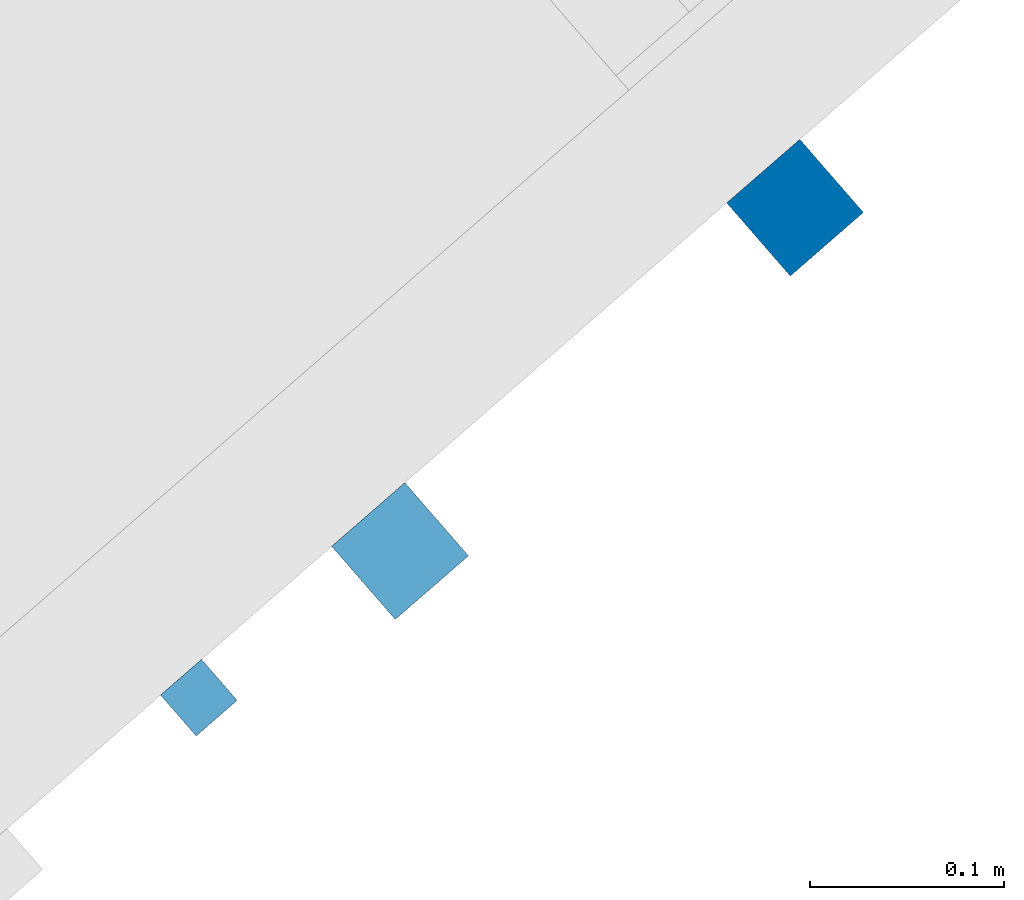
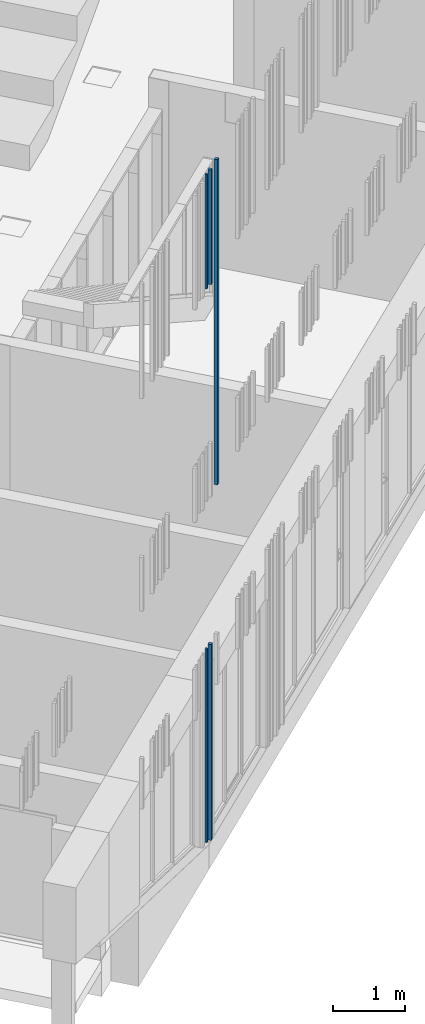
# One storey, part 37 of 124: 5 walls.
"""IFC2X3 building model written with IfcOpenShell, lengths in millimetres."""

import ifcopenshell
import ifcopenshell.guid

model = None  # the IFC model being written
_history = None  # IfcOwnerHistory: only IFC2X3 demands one
_inside = {}  # id of a spatial element -> (the spatial element, [elements in it])
_under = {}  # id of a project, library or spatial element -> (it, [spatial elements below it])
_declared = {}  # id of a project -> (the project, [libraries it declares])
_typed = {}  # id of a type object -> (the type object, [elements of that type])
_made_of = {}  # id of a material, layer set ... -> (it, [elements and type objects made of it])


def new_model(schema):
    """Start an empty IFC model of exactly this schema.

    Asked for "IFC4X3", IfcOpenShell would pick the latest addendum, in which some entities
    have other attributes; the version numbers below select the first issue.
    IFC2X3 requires an IfcOwnerHistory on every rooted entity: one is made here for all.
    """
    global model, _history
    if schema == "IFC4X3":
        model = ifcopenshell.file(schema_version=(4, 3, 0, 0))
    else:
        model = ifcopenshell.file(schema=schema)
    _inside.clear()
    _under.clear()
    _declared.clear()
    _typed.clear()
    _made_of.clear()
    _history = None
    if model.schema == "IFC2X3":
        org = make("IfcOrganization", Name="unknown")
        user = make(
            "IfcPersonAndOrganization",
            ThePerson=make("IfcPerson", FamilyName="unknown"),
            TheOrganization=org,
        )
        app = make(
            "IfcApplication",
            ApplicationDeveloper=org,
            Version="unknown",
            ApplicationFullName="unknown",
            ApplicationIdentifier="unknown",
        )
        _history = make(
            "IfcOwnerHistory",
            OwningUser=user,
            OwningApplication=app,
            ChangeAction="ADDED",
            CreationDate=0,
        )
    return model


def make(cls, **values):
    """One entity of the class cls with the attributes given. An attribute that is None is left unset."""
    return model.create_entity(
        cls, **{name: value for name, value in values.items() if value is not None}
    )


def entity(cls, *values):
    """Any entity or typed value of the class cls, its attributes in the order of the schema. None: left unset."""
    e = model.create_entity(cls)
    for i, value in enumerate(values):
        if value is not None:
            e[i] = value
    return e


def rooted(cls, **values):
    """An entity with a GlobalId (a new one), such as an element, a storey or a relation."""
    return make(cls, GlobalId=ifcopenshell.guid.new(), OwnerHistory=_history, **values)


def si_unit(unit_type, name, prefix=None):
    """IfcSIUnit, for example si_unit("LENGTHUNIT", "METRE", prefix="MILLI")."""
    return make("IfcSIUnit", UnitType=unit_type, Prefix=prefix, Name=name)


def converted_unit(unit_type, name, factor, base, dimensions=None, offset=None):
    """IfcConversionBasedUnit, such as the inch: factor (a typed value) times the base unit."""
    return make(
        "IfcConversionBasedUnit"
        if offset is None
        else "IfcConversionBasedUnitWithOffset",
        ConversionOffset=offset,
        Dimensions=None
        if dimensions is None
        else entity("IfcDimensionalExponents", *dimensions),
        UnitType=unit_type,
        Name=name,
        ConversionFactor=make(
            "IfcMeasureWithUnit", ValueComponent=factor, UnitComponent=base
        ),
    )


def derived_unit(unit_type, elements):
    """IfcDerivedUnit: a product of units, each with its exponent."""
    return make(
        "IfcDerivedUnit",
        Elements=[
            make("IfcDerivedUnitElement", Unit=unit, Exponent=power)
            for unit, power in elements
        ],
        UnitType=unit_type,
    )


def money_unit(currency):
    """IfcMonetaryUnit."""
    return make("IfcMonetaryUnit", Currency=currency)


def assignment(units):
    """IfcUnitAssignment: the units of a project."""
    return None if units is None else make("IfcUnitAssignment", Units=units)


def point(xyz):
    """IfcCartesianPoint."""
    return None if xyz is None else make("IfcCartesianPoint", Coordinates=xyz)


def direction(xyz):
    """IfcDirection."""
    return None if xyz is None else make("IfcDirection", DirectionRatios=xyz)


def frame(location, z_axis=None, x_axis=None):
    """IfcAxis2Placement3D, a coordinate frame: its origin and axes. An axis left out is left unset."""
    return make(
        "IfcAxis2Placement3D",
        Location=point(location),
        Axis=direction(z_axis),
        RefDirection=direction(x_axis),
    )


def origin_with_axes():
    """The frame at (0, 0, 0) with the z axis (0, 0, 1) and the x axis (1, 0, 0) written out."""
    return frame((0.0, 0.0, 0.0), z_axis=(0.0, 0.0, 1.0), x_axis=(1.0, 0.0, 0.0))


def place(relative_to, where):
    """IfcLocalPlacement: puts the frame where relative to a parent placement (None: the world)."""
    return make(
        "IfcLocalPlacement", PlacementRelTo=relative_to, RelativePlacement=where
    )


def context(
    kind, dimensions, precision=None, world=None, true_north=None, identifier=None
):
    """IfcGeometricRepresentationContext, for example the 3D "Model" context."""
    return make(
        "IfcGeometricRepresentationContext",
        ContextIdentifier=identifier,
        ContextType=kind,
        CoordinateSpaceDimension=dimensions,
        Precision=precision,
        WorldCoordinateSystem=world,
        TrueNorth=true_north,
    )


def subcontext(parent, identifier, kind, view, scale=None):
    """IfcGeometricRepresentationSubContext, for example "Body" below "Model"."""
    return make(
        "IfcGeometricRepresentationSubContext",
        ContextIdentifier=identifier,
        ContextType=kind,
        ParentContext=parent,
        TargetScale=scale,
        TargetView=view,
    )


def project(units=None, contexts=None):
    """IfcProject with its units and contexts."""
    return rooted(
        "IfcProject",
        Name="project",
        RepresentationContexts=contexts,
        UnitsInContext=assignment(units),
    )


def spatial(cls, under=None, at=None, **own):
    """A site, building, storey or space (cls), placed at a placement, below another one or the project."""
    s = rooted(cls, ObjectPlacement=at, **own)
    if under is not None:
        _under.setdefault(under.id(), (under, []))[1].append(s)
    return s


def faces_of(points, faces, orient=None, outer=None):
    """IfcFace entities. A face is a list of loops; a loop is a list of indices into points, from 0.

    orient and outer hold one flag for each loop. By default every Orientation is true, the
    first loop of a face is its IfcFaceOuterBound and the others are IfcFaceBound.
    """
    made = []
    for i, loops in enumerate(faces):
        bounds = []
        for j, loop in enumerate(loops):
            is_outer = j == 0 if outer is None else outer[i][j]
            bounds.append(
                make(
                    "IfcFaceOuterBound" if is_outer else "IfcFaceBound",
                    Bound=make("IfcPolyLoop", Polygon=[points[k] for k in loop]),
                    Orientation=True if orient is None else orient[i][j],
                )
            )
        made.append(make("IfcFace", Bounds=bounds))
    return made


def faceted_brep(points, faces, orient=None, outer=None, voids=None):
    """IfcFacetedBrep: a solid bounded by flat faces; with voids (closed shells), ...WithVoids."""
    shared = [point(p) for p in points]
    hull = make("IfcClosedShell", CfsFaces=faces_of(shared, faces, orient, outer))
    if voids is None:
        return make("IfcFacetedBrep", Outer=hull)
    return make(
        "IfcFacetedBrepWithVoids",
        Outer=hull,
        Voids=[
            make(cls, CfsFaces=faces_of(shared, fs, o, b)) for cls, fs, o, b in voids
        ],
    )


def shape(context_of_items, identifier, shape_type, items):
    """IfcShapeRepresentation: the items that make up one representation, for example the "Body"."""
    return make(
        "IfcShapeRepresentation",
        ContextOfItems=context_of_items,
        RepresentationIdentifier=identifier,
        RepresentationType=shape_type,
        Items=items,
    )


def material(Name=None, Category=None):
    """IfcMaterial."""
    return make("IfcMaterial", Name=Name, Category=Category)


def made_of(thing, what):
    """Note that an element or type object is made of a material, layer set ...; save() writes the relation."""
    if what is not None:
        _made_of.setdefault(what.id(), (what, []))[1].append(thing)
    return thing


def type_object(cls, material=None, **own):
    """A type object (cls), such as IfcWallType, which elements share."""
    return made_of(rooted(cls, **own), material)


def element(
    cls,
    number,
    at=None,
    inside=None,
    cuts=None,
    type_object=None,
    material=None,
    context=None,
    identifier="Body",
    shape_type=None,
    held_by="IfcProductDefinitionShape",
    body=None,
    shapes=None,
    **own,
):
    """One element of the class cls, such as IfcWall. Its Tag is "e" and its number.

    at: its placement. inside: the storey or other place that contains it. cuts: it is an
    opening in that element (IfcRelVoidsElement). A single representation is given by context,
    identifier, shape_type and body (its items); several are given by shapes. held_by: the class
    of the entity that holds the representations. save() writes the other relations.
    """
    e = rooted(cls, Tag="e%d" % number, ObjectPlacement=at, **own)
    if body is not None:
        shapes = [shape(context, identifier, shape_type, body)]
    if shapes is not None:
        e.Representation = make(held_by, Representations=shapes)
    if inside is not None:
        _inside.setdefault(inside.id(), (inside, []))[1].append(e)
    if cuts is not None:
        rooted(
            "IfcRelVoidsElement", RelatingBuildingElement=cuts, RelatedOpeningElement=e
        )
    if type_object is not None:
        _typed.setdefault(type_object.id(), (type_object, []))[1].append(e)
    return made_of(e, material)


def aggregate(whole, parts):
    """IfcRelAggregates: a whole, such as a stair, and the parts it consists of."""
    return rooted("IfcRelAggregates", RelatingObject=whole, RelatedObjects=parts)


def save(model, path):
    """Write the relations noted so far, then the file.

    IfcRelAggregates (storeys below a building ...), IfcRelContainedInSpatialStructure (elements
    in a storey), IfcRelDefinesByType, IfcRelAssociatesMaterial and IfcRelDeclares: one each for
    every whole, place, type object, material and project.
    """
    for whole, parts in _under.values():
        aggregate(whole, parts)
    for where, things in _inside.values():
        rooted(
            "IfcRelContainedInSpatialStructure",
            RelatedElements=things,
            RelatingStructure=where,
        )
    for kind, things in _typed.values():
        rooted("IfcRelDefinesByType", RelatedObjects=things, RelatingType=kind)
    for what, things in _made_of.values():
        rooted("IfcRelAssociatesMaterial", RelatedObjects=things, RelatingMaterial=what)
    for by, libraries in _declared.values():
        rooted("IfcRelDeclares", RelatingContext=by, RelatedDefinitions=libraries)
    model.write(path)


model = new_model("IFC2X3")

# Units and contexts
model_context = context("Model", 3, precision=1e-05, world=origin_with_axes(), true_north=direction((0.0, 1.0)))
body_context = subcontext(model_context, "Body", "Model", "MODEL_VIEW")
ifc_project = project(units=[si_unit("LENGTHUNIT", "METRE", prefix="MILLI"), si_unit("AREAUNIT", "SQUARE_METRE"), si_unit("VOLUMEUNIT", "CUBIC_METRE"), converted_unit("PLANEANGLEUNIT", "DEGREE", entity("IfcPlaneAngleMeasure", 0.0174532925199), si_unit("PLANEANGLEUNIT", "RADIAN"), dimensions=[0, 0, 0, 0, 0, 0, 0]), si_unit("SOLIDANGLEUNIT", "STERADIAN"), money_unit("EUR"), converted_unit("TIMEUNIT", "Year", entity("IfcTimeMeasure", 31556926.0), si_unit("TIMEUNIT", "SECOND"), dimensions=[0, 0, 1, 0, 0, 0, 0]), si_unit("MASSUNIT", "GRAM", prefix="KILO"), si_unit("THERMODYNAMICTEMPERATUREUNIT", "DEGREE_CELSIUS"), si_unit("LUMINOUSINTENSITYUNIT", "LUMEN"), si_unit("ENERGYUNIT", "JOULE", prefix="MEGA"), derived_unit("THERMALCONDUCTANCEUNIT", [(si_unit("POWERUNIT", "WATT"), 1), (si_unit("LENGTHUNIT", "METRE"), -1), (si_unit("THERMODYNAMICTEMPERATUREUNIT", "KELVIN"), -1)]), derived_unit("SPECIFICHEATCAPACITYUNIT", [(si_unit("ENERGYUNIT", "JOULE"), 1), (si_unit("MASSUNIT", "GRAM", prefix="KILO"), -1), (si_unit("THERMODYNAMICTEMPERATUREUNIT", "KELVIN"), -1)]), derived_unit("MASSDENSITYUNIT", [(si_unit("MASSUNIT", "GRAM", prefix="KILO"), 1), (si_unit("VOLUMEUNIT", "CUBIC_METRE"), -1)])], contexts=[model_context])

# Site, building, storey
site_placement = place(None, origin_with_axes())
site = spatial("IfcSite", under=ifc_project, at=site_placement, Name="Site", CompositionType="ELEMENT")
building_placement = place(site_placement, origin_with_axes())
building = spatial("IfcBuilding", under=site, at=building_placement, Name="Building", CompositionType="ELEMENT")
storey_placement = place(building_placement, frame((0.0, 0.0, -1615.0), z_axis=(0.0, 0.0, 1.0), x_axis=(1.0, 0.0, 0.0)))
storey = spatial("IfcBuildingStorey", under=building, at=storey_placement, Name="0  korrus", CompositionType="ELEMENT", Elevation=-1615.0)

# Walls
ifc_material = material(Name="Site specified")
wall_type = type_object("IfcWallType", Name="Puitfassaadi ribistik", PredefinedType="NOTDEFINED")
wall_1_placement = place(storey_placement, frame((153109.295955, 77726.4970636, 9530.0), z_axis=(0.0, 0.0, 1.0), x_axis=(-0.754709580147, -0.656059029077, 0.0)))
element("IfcWall", 1, at=wall_1_placement, inside=storey, type_object=wall_type, material=ifc_material, Name="Site specified", context=body_context, shape_type="Brep", body=[
    faceted_brep([(25.0, 25.0, 1950.0), (25.0, 25.0, 0.0), (-25.0, 25.0, 0.0), (-25.0, 25.0, 1950.0), (25.0, -25.0, 1950.0), (25.0, -25.0, 0.0), (-25.0, -25.0, 0.0), (-25.0, -25.0, 1950.0)], [[[0, 1, 2, 3]], [[4, 5, 1, 0]], [[2, 1, 5, 6]], [[3, 2, 6, 7]], [[4, 0, 3, 7]], [[7, 6, 5, 4]]]),
])
wall_2_placement = place(storey_placement, frame((153005.488608, 77650.8343419, 9530.0), z_axis=(0.0, 0.0, 1.0), x_axis=(-0.754709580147, -0.656059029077, 0.0)))
element("IfcWall", 2, at=wall_2_placement, inside=storey, type_object=wall_type, material=ifc_material, Name="Site specified", context=body_context, shape_type="Brep", body=[
    faceted_brep([(14.0, 14.0, 1950.0), (14.0, 14.0, 0.0), (-14.0, 14.0, 0.0), (-14.0, 14.0, 1950.0), (14.0, -14.0, 1950.0), (14.0, -14.0, 0.0), (-14.0, -14.0, 0.0), (-14.0, -14.0, 1950.0)], [[[0, 1, 2, 3]], [[4, 5, 1, 0]], [[2, 1, 5, 6]], [[3, 2, 6, 7]], [[4, 0, 3, 7]], [[7, 6, 5, 4]]]),
])
wall_3_placement = place(storey_placement, frame((153005.488608, 77650.8343419, 112.112053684), z_axis=(0.0, 0.0, 1.0), x_axis=(-0.754709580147, -0.656059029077, 0.0)))
element("IfcWall", 3, at=wall_3_placement, inside=storey, type_object=wall_type, material=ifc_material, Name="Site specified", context=body_context, shape_type="Brep", body=[
    faceted_brep([(14.0, 14.0, 3297.88794632), (14.0, 14.0, 0.0), (-14.0, 14.0, 0.0), (-14.0, 14.0, 3297.88794632), (14.0, -14.0, 3297.88794632), (14.0, -14.0, 0.0), (-14.0, -14.0, 0.0), (-14.0, -14.0, 3297.88794632)], [[[0, 1, 2, 3]], [[4, 5, 1, 0]], [[2, 1, 5, 6]], [[3, 2, 6, 7]], [[4, 0, 3, 7]], [[7, 6, 5, 4]]]),
])
wall_4_placement = place(storey_placement, frame((153313.078569, 77903.643056, 5944.65300044), z_axis=(0.0, 0.0, 1.0), x_axis=(-0.754709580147, -0.656059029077, 0.0)))
element("IfcWall", 4, at=wall_4_placement, inside=storey, type_object=wall_type, material=ifc_material, Name="Site specified", context=body_context, shape_type="Brep", body=[
    faceted_brep([(25.0, 25.0, 5535.34699956), (25.0, 25.0, 0.0), (-25.0, 25.0, 0.0), (-25.0, 25.0, 5535.34699956), (25.0, -25.0, 5535.34699956), (25.0, -25.0, 0.0), (-25.0, -25.0, 0.0), (-25.0, -25.0, 5535.34699956)], [[[0, 1, 2, 3]], [[4, 5, 1, 0]], [[2, 1, 5, 6]], [[3, 2, 6, 7]], [[4, 0, 3, 7]], [[7, 6, 5, 4]]]),
])
wall_5_placement = place(storey_placement, frame((153109.295955, 77726.4970636, 78.2223310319), z_axis=(0.0, 0.0, 1.0), x_axis=(-0.754709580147, -0.656059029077, 0.0)))
element("IfcWall", 5, at=wall_5_placement, inside=storey, type_object=wall_type, material=ifc_material, Name="Site specified", context=body_context, shape_type="Brep", body=[
    faceted_brep([(25.0, 25.0, 3331.77768774), (25.0, 25.0, 0.0), (-25.0, 25.0, 0.0), (-25.0, 25.0, 3331.77768774), (25.0, -25.0, 3331.77768774), (25.0, -25.0, 0.0), (-25.0, -25.0, 0.0), (-25.0, -25.0, 3331.77768774)], [[[0, 1, 2, 3]], [[4, 5, 1, 0]], [[2, 1, 5, 6]], [[3, 2, 6, 7]], [[4, 0, 3, 7]], [[7, 6, 5, 4]]]),
])

save(model, "model.ifc")
